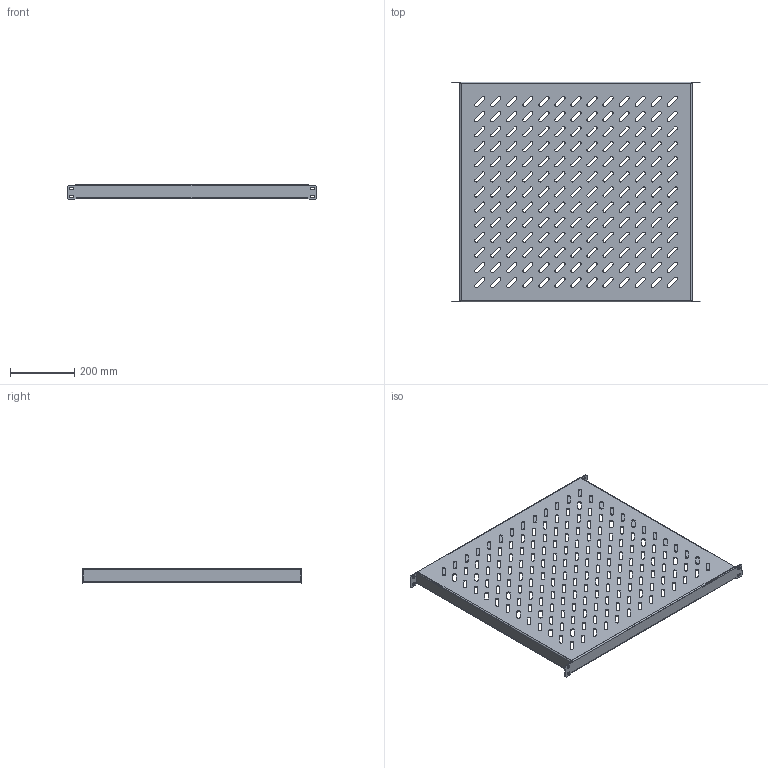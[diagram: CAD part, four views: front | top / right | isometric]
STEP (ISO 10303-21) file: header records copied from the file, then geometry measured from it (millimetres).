
FILE_DESCRIPTION (( 'STEP AP214' ), '1' );
FILE_NAME ('SH 80.80 F Ïîëêà óñèëåííàÿ.STEP', '2025-11-05T16:55:35', ( '' ), ( '' ), 'SwSTEP 2.0', 'SolidWorks 2022', '' );
FILE_SCHEMA (( 'AUTOMOTIVE_DESIGN' ));
Length unit declared in the file: millimetre
Products named in the file (1): SH 80.80 F Полка усиленная
Bounding box: 777.99 x 685 x 48 mm (x, y, z)
Volume: 1552578.3 mm3; surface area: 1290227.2 mm2
Topology: 1 solids, 1 shells, 965 faces, 2843 edges, 1874 vertices
Faces by surface type: cylinder 539, plane 410, bspline 16
Entity records: 34161 total; most frequent: CARTESIAN_POINT 6787, DIRECTION 5757, ORIENTED_EDGE 5686, EDGE_CURVE 2843, AXIS2_PLACEMENT_3D 1996, VERTEX_POINT 1874, LINE 1765, VECTOR 1765
